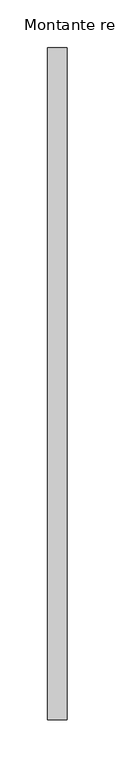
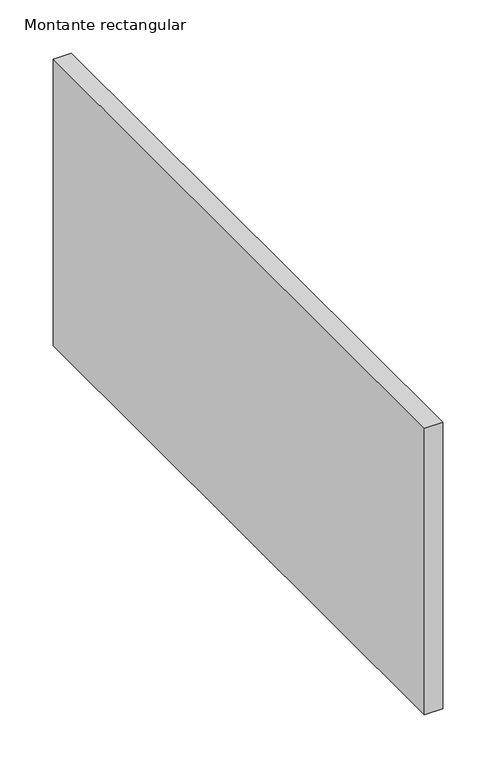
"""IFC4 building model written with IfcOpenShell, lengths in millimetres: member geometry, Montante rectangular : CIRCLES 2."""

from ifc_helpers import new_model, si_unit, frame, origin, place, context, project, spatial, polyline, outline, extrude, source, transform, mapped, element, save


def montante_rectangular_06c3d7c7(model_context):
    return source(origin(), model_context, "Body", "SweptSolid", [
        extrude(outline(polyline([(-20.0, 350.0), (0.0, 350.0), (0.0, -350.0), (-20.0, -350.0), (-20.0, 350.0)])), frame((0.0, 0.0, -329.8890788), z_axis=(0.0, 0.0, 1.0), x_axis=(1.0, 0.0, 0.0)), (0.0, 0.0, 1.0), 329.8890788),
    ])


if __name__ == "__main__":
    model = new_model("IFC4")
    model_context = context("Model", 3, world=origin())
    ifc_project = project(units=[si_unit("LENGTHUNIT", "METRE", prefix="MILLI")], contexts=[model_context])
    site = spatial("IfcSite", under=ifc_project)
    building = spatial("IfcBuilding", under=site)
    placement = place(None, origin())
    montante_rectangular_shape = montante_rectangular_06c3d7c7(model_context)
    element("IfcMember", 1, ObjectType="Montante rectangular : CIRCLES 2", at=placement, inside=building, context=model_context, shape_type="MappedRepresentation", body=[
        mapped(montante_rectangular_shape, transform((0.0, 0.0, 0.0), x_axis=(1.0, 0.0, 0.0), y_axis=(0.0, 1.0, 0.0), z_axis=(0.0, 0.0, 1.0))),
    ])
    save(model, "model.ifc")
